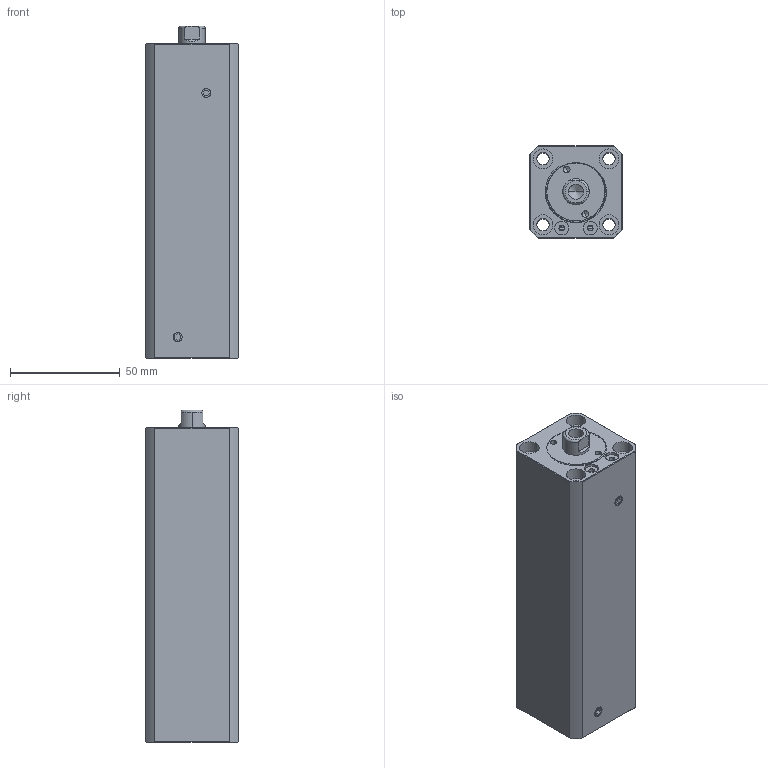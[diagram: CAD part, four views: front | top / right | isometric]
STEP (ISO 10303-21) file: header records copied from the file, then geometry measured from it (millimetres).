
FILE_DESCRIPTION (( 'STEP AP214' ), '1' );
FILE_NAME ('chtb-sdma20x100n_asm.STEP', '2018-05-18T07:02:50', ( '' ), ( '' ), 'SwSTEP 2.0', 'SolidWorks 2016', '' );
FILE_SCHEMA (( 'AUTOMOTIVE_DESIGN' ));
Length unit declared in the file: millimetre
Products named in the file (5): socket set screw flat point_iso_ISO 4026 - M5 x 5-N; QG_3; CHTB-SDMA20X100NHSG; CHTB-SDMA20X100NBT; chtb-sdma20x100n_asm
Assembly tree (5 placements, depth 2):
  chtb-sdma20x100n_asm
    CHTB-SDMA20X100NBT
    CHTB-SDMA20X100NHSG
    QG_3
    socket set screw flat point_iso_ISO 4026 - M5 x 5-N  x2
Bounding box: 42 x 42 x 151 mm (x, y, z)
Volume: 209966.4 mm3; surface area: 58571 mm2
Topology: 5 solids, 5 shells, 232 faces, 602 edges, 396 vertices
Faces by surface type: cylinder 111, plane 61, torus 25, bspline 21, cone 14
Entity records: 12042 total; most frequent: CARTESIAN_POINT 6742, ORIENTED_EDGE 1128, DIRECTION 1000, EDGE_CURVE 564, AXIS2_PLACEMENT_3D 415, VERTEX_POINT 376, EDGE_LOOP 256, FACE_OUTER_BOUND 217
